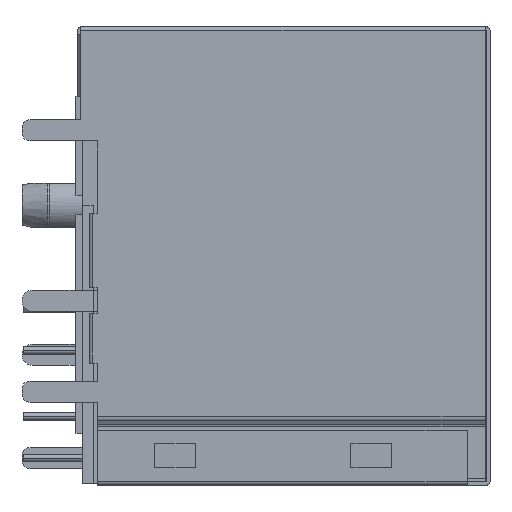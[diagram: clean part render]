
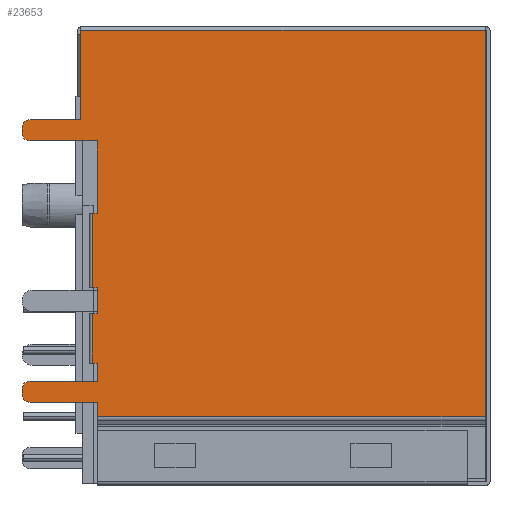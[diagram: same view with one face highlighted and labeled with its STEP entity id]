
A CAD part, front view. The second image highlights one B-rep face of the part: STEP entity #23653.
In plain terms, the highlighted planar face has unit normal (0, -1, 0).
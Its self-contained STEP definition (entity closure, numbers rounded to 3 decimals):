
#20538=CARTESIAN_POINT('',(-27.9,-29.55,-8.1));
#20539=DIRECTION('',(0.,-1.,0.));
#20540=DIRECTION('',(-1.,0.,0.));
#20541=AXIS2_PLACEMENT_3D('',#20538,#20539,#20540);
#20543=CARTESIAN_POINT('',(-27.9,-29.55,-7.8));
#20544=DIRECTION('',(0.,-1.,0.));
#20545=DIRECTION('',(0.,0.,1.));
#20546=AXIS2_PLACEMENT_3D('',#20543,#20544,#20545);
#20548=DIRECTION('',(0.,0.,1.));
#20549=VECTOR('',#20548,1.1);
#20550=CARTESIAN_POINT('',(-23.8,-29.55,-7.3));
#20551=LINE('',#20550,#20549);
#20552=DIRECTION('',(-1.,0.,0.));
#20553=VECTOR('',#20552,0.3);
#20554=CARTESIAN_POINT('',(-23.8,-29.55,-6.2));
#20555=LINE('',#20554,#20553);
#20556=DIRECTION('',(1.,0.,0.));
#20557=VECTOR('',#20556,0.3);
#20558=CARTESIAN_POINT('',(-24.1,-29.55,-3.2));
#20559=LINE('',#20558,#20557);
#20560=DIRECTION('',(0.,0.,1.));
#20561=VECTOR('',#20560,1.6);
#20562=CARTESIAN_POINT('',(-23.8,-29.55,-3.2));
#20563=LINE('',#20562,#20561);
#20564=DIRECTION('',(-1.,0.,0.));
#20565=VECTOR('',#20564,0.3);
#20566=CARTESIAN_POINT('',(-23.8,-29.55,-1.6));
#20567=LINE('',#20566,#20565);
#20568=DIRECTION('',(1.,0.,0.));
#20569=VECTOR('',#20568,0.3);
#20570=CARTESIAN_POINT('',(-24.1,-29.55,2.95));
#20571=LINE('',#20570,#20569);
#20572=DIRECTION('',(0.,0.,1.));
#20573=VECTOR('',#20572,4.42);
#20574=CARTESIAN_POINT('',(-23.8,-29.55,2.95));
#20575=LINE('',#20574,#20573);
#20576=DIRECTION('',(-1.,0.,0.));
#20577=VECTOR('',#20576,4.1);
#20578=CARTESIAN_POINT('',(-23.8,-29.55,7.37));
#20579=LINE('',#20578,#20577);
#20580=CARTESIAN_POINT('',(-27.9,-29.55,7.87));
#20581=DIRECTION('',(0.,1.,0.));
#20582=DIRECTION('',(0.,0.,-1.));
#20583=AXIS2_PLACEMENT_3D('',#20580,#20581,#20582);
#20585=DIRECTION('',(0.,0.,1.));
#20586=VECTOR('',#20585,0.3);
#20587=CARTESIAN_POINT('',(-28.4,-29.55,7.87));
#20588=LINE('',#20587,#20586);
#20589=CARTESIAN_POINT('',(-27.9,-29.55,8.17));
#20590=DIRECTION('',(0.,1.,0.));
#20591=DIRECTION('',(-1.,0.,0.));
#20592=AXIS2_PLACEMENT_3D('',#20589,#20590,#20591);
#20594=DIRECTION('',(1.,0.,0.));
#20595=VECTOR('',#20594,3.1);
#20596=CARTESIAN_POINT('',(-27.9,-29.55,8.67));
#20597=LINE('',#20596,#20595);
#20598=DIRECTION('',(0.,0.,1.));
#20599=VECTOR('',#20598,5.47);
#20600=CARTESIAN_POINT('',(-24.8,-29.55,8.67));
#20601=LINE('',#20600,#20599);
#20602=DIRECTION('',(1.,0.,0.));
#20603=VECTOR('',#20602,24.7);
#20604=CARTESIAN_POINT('',(-24.8,-29.55,14.14));
#20605=LINE('',#20604,#20603);
#20606=DIRECTION('',(0.,0.,-1.));
#20607=VECTOR('',#20606,23.625);
#20608=CARTESIAN_POINT('',(-0.1,-29.55,14.14));
#20609=LINE('',#20608,#20607);
#20614=DIRECTION('',(1.,0.,0.));
#20615=VECTOR('',#20614,4.1);
#20616=CARTESIAN_POINT('',(-27.9,-29.55,-8.6));
#20617=LINE('',#20616,#20615);
#20662=DIRECTION('',(0.,0.,-1.));
#20663=VECTOR('',#20662,0.885);
#20664=CARTESIAN_POINT('',(-23.8,-29.55,-8.6));
#20665=LINE('',#20664,#20663);
#20666=DIRECTION('',(1.,0.,0.));
#20667=VECTOR('',#20666,23.7);
#20668=CARTESIAN_POINT('',(-23.8,-29.55,-9.485));
#20669=LINE('',#20668,#20667);
#20807=DIRECTION('',(0.,0.,-1.));
#20808=VECTOR('',#20807,4.55);
#20809=CARTESIAN_POINT('',(-24.1,-29.55,2.95));
#20810=LINE('',#20809,#20808);
#20893=DIRECTION('',(0.,0.,-1.));
#20894=VECTOR('',#20893,3.);
#20895=CARTESIAN_POINT('',(-24.1,-29.55,-3.2));
#20896=LINE('',#20895,#20894);
#20970=DIRECTION('',(-1.,0.,0.));
#20971=VECTOR('',#20970,4.1);
#20972=CARTESIAN_POINT('',(-23.8,-29.55,-7.3));
#20973=LINE('',#20972,#20971);
#20986=DIRECTION('',(0.,0.,-1.));
#20987=VECTOR('',#20986,0.3);
#20988=CARTESIAN_POINT('',(-28.4,-29.55,-7.8));
#20989=LINE('',#20988,#20987);
#21600=CARTESIAN_POINT('',(-0.1,-29.55,-9.485));
#21602=VERTEX_POINT('',#21600);
#21615=CARTESIAN_POINT('',(-23.8,-29.55,-9.485));
#21617=VERTEX_POINT('',#21615);
#21659=CARTESIAN_POINT('',(-24.8,-29.55,8.67));
#21660=VERTEX_POINT('',#21659);
#21661=CARTESIAN_POINT('',(-27.9,-29.55,8.67));
#21662=VERTEX_POINT('',#21661);
#21663=CARTESIAN_POINT('',(-28.4,-29.55,8.17));
#21664=VERTEX_POINT('',#21663);
#21665=CARTESIAN_POINT('',(-23.8,-29.55,-1.6));
#21666=CARTESIAN_POINT('',(-24.1,-29.55,-1.6));
#21667=VERTEX_POINT('',#21665);
#21668=VERTEX_POINT('',#21666);
#21669=CARTESIAN_POINT('',(-24.1,-29.55,2.95));
#21670=VERTEX_POINT('',#21669);
#21671=CARTESIAN_POINT('',(-23.8,-29.55,2.95));
#21672=VERTEX_POINT('',#21671);
#21673=CARTESIAN_POINT('',(-23.8,-29.55,7.37));
#21674=VERTEX_POINT('',#21673);
#21675=CARTESIAN_POINT('',(-27.9,-29.55,7.37));
#21676=VERTEX_POINT('',#21675);
#21677=CARTESIAN_POINT('',(-28.4,-29.55,7.87));
#21678=VERTEX_POINT('',#21677);
#21679=CARTESIAN_POINT('',(-23.8,-29.55,-6.2));
#21680=CARTESIAN_POINT('',(-24.1,-29.55,-6.2));
#21681=VERTEX_POINT('',#21679);
#21682=VERTEX_POINT('',#21680);
#21683=CARTESIAN_POINT('',(-24.1,-29.55,-3.2));
#21684=VERTEX_POINT('',#21683);
#21685=CARTESIAN_POINT('',(-23.8,-29.55,-3.2));
#21686=VERTEX_POINT('',#21685);
#22083=CARTESIAN_POINT('',(-24.8,-29.55,14.14));
#22085=VERTEX_POINT('',#22083);
#22089=CARTESIAN_POINT('',(-0.1,-29.55,14.14));
#22090=VERTEX_POINT('',#22089);
#22164=CARTESIAN_POINT('',(-23.8,-29.55,-8.6));
#22166=VERTEX_POINT('',#22164);
#22167=CARTESIAN_POINT('',(-23.8,-29.55,-7.3));
#22169=VERTEX_POINT('',#22167);
#22171=CARTESIAN_POINT('',(-28.4,-29.55,-8.1));
#22172=CARTESIAN_POINT('',(-27.9,-29.55,-8.6));
#22173=VERTEX_POINT('',#22171);
#22174=VERTEX_POINT('',#22172);
#22179=CARTESIAN_POINT('',(-27.9,-29.55,-7.3));
#22180=CARTESIAN_POINT('',(-28.4,-29.55,-7.8));
#22181=VERTEX_POINT('',#22179);
#22182=VERTEX_POINT('',#22180);
#23601=CARTESIAN_POINT('',(-24.8,-29.55,14.1));
#23602=DIRECTION('',(0.,-1.,0.));
#23603=DIRECTION('',(-1.,0.,0.));
#23604=AXIS2_PLACEMENT_3D('',#23601,#23602,#23603);
#23605=PLANE('',#23604);
#23607=ORIENTED_EDGE('',*,*,#23606,.F.);
#23609=ORIENTED_EDGE('',*,*,#23608,.F.);
#23611=ORIENTED_EDGE('',*,*,#23610,.F.);
#23613=ORIENTED_EDGE('',*,*,#23612,.F.);
#23615=ORIENTED_EDGE('',*,*,#23614,.T.);
#23617=ORIENTED_EDGE('',*,*,#23616,.T.);
#23619=ORIENTED_EDGE('',*,*,#23618,.F.);
#23621=ORIENTED_EDGE('',*,*,#23620,.T.);
#23623=ORIENTED_EDGE('',*,*,#23622,.T.);
#23625=ORIENTED_EDGE('',*,*,#23624,.T.);
#23627=ORIENTED_EDGE('',*,*,#23626,.F.);
#23629=ORIENTED_EDGE('',*,*,#23628,.T.);
#23631=ORIENTED_EDGE('',*,*,#23630,.T.);
#23633=ORIENTED_EDGE('',*,*,#23632,.T.);
#23635=ORIENTED_EDGE('',*,*,#23634,.T.);
#23637=ORIENTED_EDGE('',*,*,#23636,.T.);
#23639=ORIENTED_EDGE('',*,*,#23638,.T.);
#23641=ORIENTED_EDGE('',*,*,#23640,.T.);
#23642=ORIENTED_EDGE('',*,*,#23588,.T.);
#23643=ORIENTED_EDGE('',*,*,#23577,.T.);
#23644=ORIENTED_EDGE('',*,*,#23563,.T.);
#23646=ORIENTED_EDGE('',*,*,#23645,.F.);
#23648=ORIENTED_EDGE('',*,*,#23647,.F.);
#23650=ORIENTED_EDGE('',*,*,#23649,.F.);
#23651=EDGE_LOOP('',(#23607,#23609,#23611,#23613,#23615,#23617,#23619,#23621,
#23623,#23625,#23627,#23629,#23631,#23633,#23635,#23637,#23639,#23641,#23642,
#23643,#23644,#23646,#23648,#23650));
#23652=FACE_OUTER_BOUND('',#23651,.F.);
#23653=ADVANCED_FACE('',(#23652),#23605,.T.);
#20542=CIRCLE('',#20541,0.5);
#20547=CIRCLE('',#20546,0.5);
#20584=CIRCLE('',#20583,0.5);
#20593=CIRCLE('',#20592,0.5);
#23563=EDGE_CURVE('',#22090,#21602,#20609,.T.);
#23577=EDGE_CURVE('',#22085,#22090,#20605,.T.);
#23588=EDGE_CURVE('',#21660,#22085,#20601,.T.);
#23606=EDGE_CURVE('',#22173,#22174,#20542,.T.);
#23608=EDGE_CURVE('',#22182,#22173,#20989,.T.);
#23610=EDGE_CURVE('',#22181,#22182,#20547,.T.);
#23612=EDGE_CURVE('',#22169,#22181,#20973,.T.);
#23614=EDGE_CURVE('',#22169,#21681,#20551,.T.);
#23616=EDGE_CURVE('',#21681,#21682,#20555,.T.);
#23618=EDGE_CURVE('',#21684,#21682,#20896,.T.);
#23620=EDGE_CURVE('',#21684,#21686,#20559,.T.);
#23622=EDGE_CURVE('',#21686,#21667,#20563,.T.);
#23624=EDGE_CURVE('',#21667,#21668,#20567,.T.);
#23626=EDGE_CURVE('',#21670,#21668,#20810,.T.);
#23628=EDGE_CURVE('',#21670,#21672,#20571,.T.);
#23630=EDGE_CURVE('',#21672,#21674,#20575,.T.);
#23632=EDGE_CURVE('',#21674,#21676,#20579,.T.);
#23634=EDGE_CURVE('',#21676,#21678,#20584,.T.);
#23636=EDGE_CURVE('',#21678,#21664,#20588,.T.);
#23638=EDGE_CURVE('',#21664,#21662,#20593,.T.);
#23640=EDGE_CURVE('',#21662,#21660,#20597,.T.);
#23645=EDGE_CURVE('',#21617,#21602,#20669,.T.);
#23647=EDGE_CURVE('',#22166,#21617,#20665,.T.);
#23649=EDGE_CURVE('',#22174,#22166,#20617,.T.);
